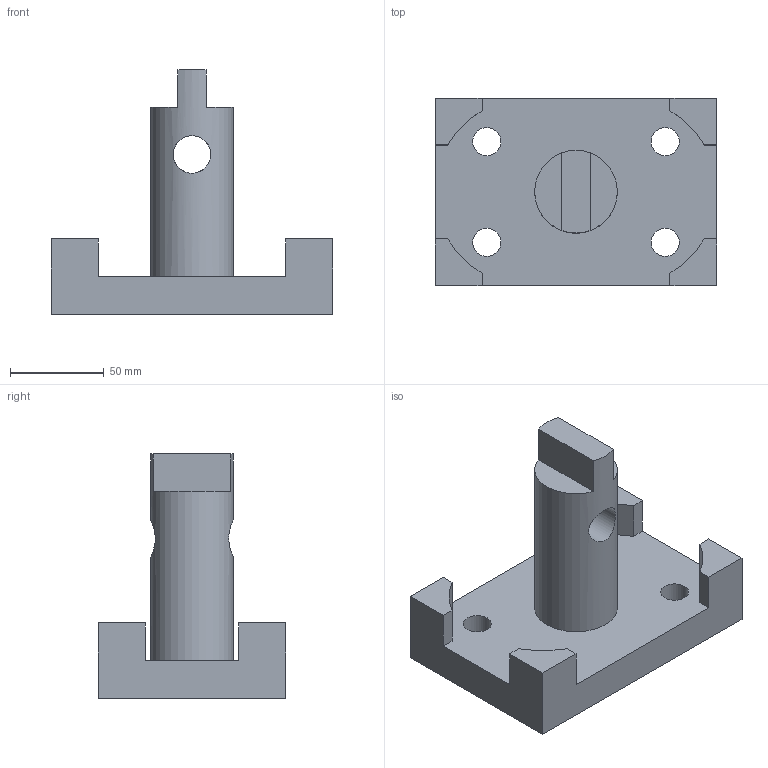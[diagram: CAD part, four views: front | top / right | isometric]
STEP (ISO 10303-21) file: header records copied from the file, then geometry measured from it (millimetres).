
FILE_DESCRIPTION(('STEP AP203'), '1');
FILE_NAME('Îñíîâàíèå âàð 11', '', ('UNSPECIFIED'), ('UNSPECIFIED'), 'C3D Converter', 'C3D Toolkit', '');
FILE_SCHEMA(('CONFIG_CONTROL_DESIGN'));
Length unit declared in the file: millimetre
Products named in the file (1): Вариант 11
Bounding box: 150 x 100 x 130 mm (x, y, z)
Volume: 456436.8 mm3; surface area: 66199.7 mm2
Topology: 1 solids, 1 shells, 33 faces, 90 edges, 60 vertices
Faces by surface type: plane 23, cylinder 10
Full cylindrical faces by diameter (mm): 15 x4, 20 x1, 44 x1
Entity records: 1210 total; most frequent: CARTESIAN_POINT 316, DIRECTION 172, ORIENTED_EDGE 168, EDGE_CURVE 84, VERTEX_POINT 60, LINE 60, VECTOR 60, AXIS2_PLACEMENT_3D 56
